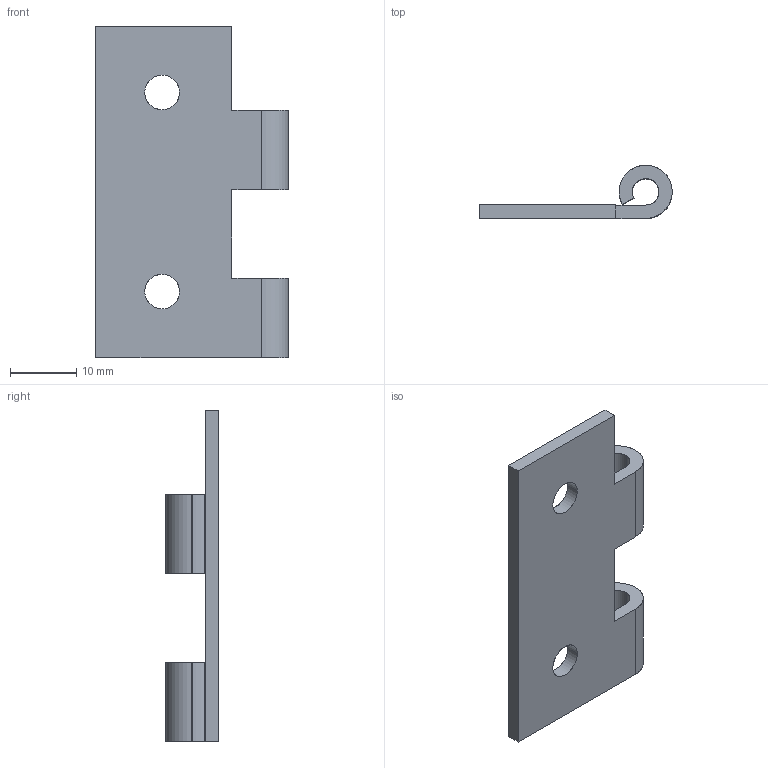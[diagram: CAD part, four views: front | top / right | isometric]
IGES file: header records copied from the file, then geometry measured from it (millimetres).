
Start section: SolidWorks IGES file using analytic representation for surfaces
Global section: file name: Z:\Mes documents\ATAO iges\Gamme CC\CC 422\422.010.00.IGS; native system: SolidWorks 2008; preprocessor: SolidWorks 2008; author: cbrechard; date: 110628.162659; units: millimetre
Bounding box: 29 x 8 x 50 mm (x, y, z)
Surface area: 3440.2 mm2 (no closed solid volume)
Topology: 0 solids, 0 shells, 28 faces, 460 edges, 460 vertices
Faces by surface type: revolution 16, bspline 12
